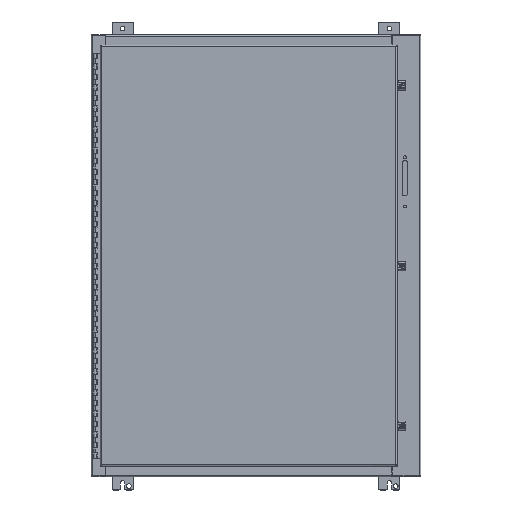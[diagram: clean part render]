
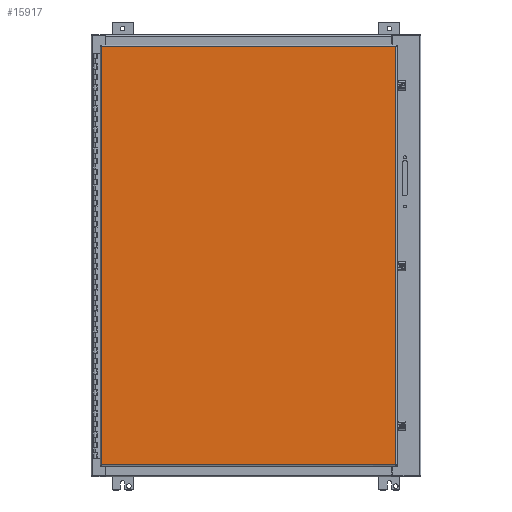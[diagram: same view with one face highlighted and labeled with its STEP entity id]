
A CAD part, top view. The second image highlights one B-rep face of the part: STEP entity #15917.
In plain terms, the highlighted planar face has unit normal (0, 0, 1) as drawn and (0, 1, 0) by its records, which use the part's own axes.
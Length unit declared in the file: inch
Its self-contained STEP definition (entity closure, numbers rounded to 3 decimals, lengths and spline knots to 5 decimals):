
#14390=DIRECTION('',(0.,0.,1.));
#14391=VECTOR('',#14390,27.96);
#14392=CARTESIAN_POINT('',(-19.88638,0.,0.145));
#14393=LINE('',#14392,#14391);
#14440=DIRECTION('',(0.,0.,1.));
#14441=VECTOR('',#14440,27.96);
#14442=CARTESIAN_POINT('',(19.88638,0.,0.145));
#14443=LINE('',#14442,#14441);
#14542=DIRECTION('',(-1.,0.,0.));
#14543=VECTOR('',#14542,39.77275);
#14544=CARTESIAN_POINT('',(19.88638,0.,0.145));
#14545=LINE('',#14544,#14543);
#15034=DIRECTION('',(-1.,0.,0.));
#15035=VECTOR('',#15034,39.77275);
#15036=CARTESIAN_POINT('',(19.88638,0.,28.105));
#15037=LINE('',#15036,#15035);
#15318=CARTESIAN_POINT('',(19.88638,0.,0.145));
#15319=CARTESIAN_POINT('',(-19.88638,0.,0.145));
#15320=VERTEX_POINT('',#15318);
#15321=VERTEX_POINT('',#15319);
#15322=CARTESIAN_POINT('',(19.88638,0.,28.105));
#15323=CARTESIAN_POINT('',(-19.88638,0.,28.105));
#15324=VERTEX_POINT('',#15322);
#15325=VERTEX_POINT('',#15323);
#15903=CARTESIAN_POINT('',(20.03138,0.,0.));
#15904=DIRECTION('',(0.,1.,0.));
#15905=DIRECTION('',(-1.,0.,0.));
#15906=AXIS2_PLACEMENT_3D('',#15903,#15904,#15905);
#15907=PLANE('',#15906);
#15909=ORIENTED_EDGE('',*,*,#15908,.T.);
#15911=ORIENTED_EDGE('',*,*,#15910,.T.);
#15912=ORIENTED_EDGE('',*,*,#15893,.F.);
#15914=ORIENTED_EDGE('',*,*,#15913,.F.);
#15915=EDGE_LOOP('',(#15909,#15911,#15912,#15914));
#15916=FACE_OUTER_BOUND('',#15915,.F.);
#15893=EDGE_CURVE('',#15321,#15325,#14393,.T.);
#15908=EDGE_CURVE('',#15320,#15324,#14443,.T.);
#15910=EDGE_CURVE('',#15324,#15325,#15037,.T.);
#15913=EDGE_CURVE('',#15320,#15321,#14545,.T.);
#15917=ADVANCED_FACE('',(#15916),#15907,.T.);
